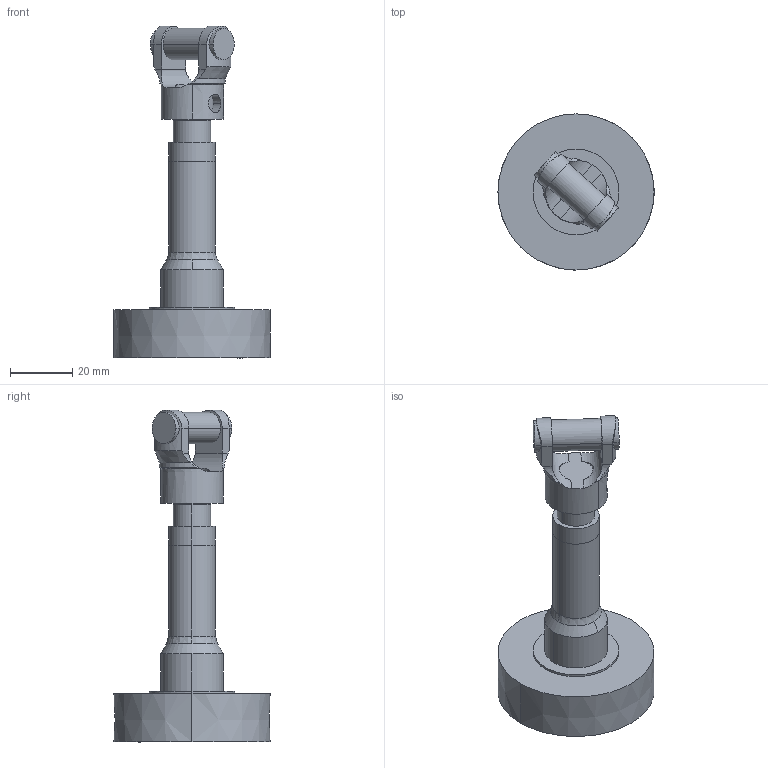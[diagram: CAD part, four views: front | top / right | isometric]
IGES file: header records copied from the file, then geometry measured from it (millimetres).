
Start section: SolidWorks IGES file using analytic representation for surfaces
Global section: file name: C:\Users\SELUHAA\OneDrive - ABB\Work items\609433\IRB360_8-1130-STD-4D_rev03\IRB360_8-1130-STD-4D_rev03_IGS_J\IRB360_8-1130-STD-4D_rev03_RevoluteLinkPlate_CAD.igs; native system: SolidWorks 2022; preprocessor: SolidWorks 2022; author: SELUHAA; date: 250115.102703; units: millimetre
Bounding box: 50 x 50 x 106.3 mm (x, y, z)
Volume: 45963.1 mm3; surface area: 12923.2 mm2
Topology: 1 solids, 1 shells, 101 faces, 236 edges, 152 vertices
Faces by surface type: revolution 76, plane 25
